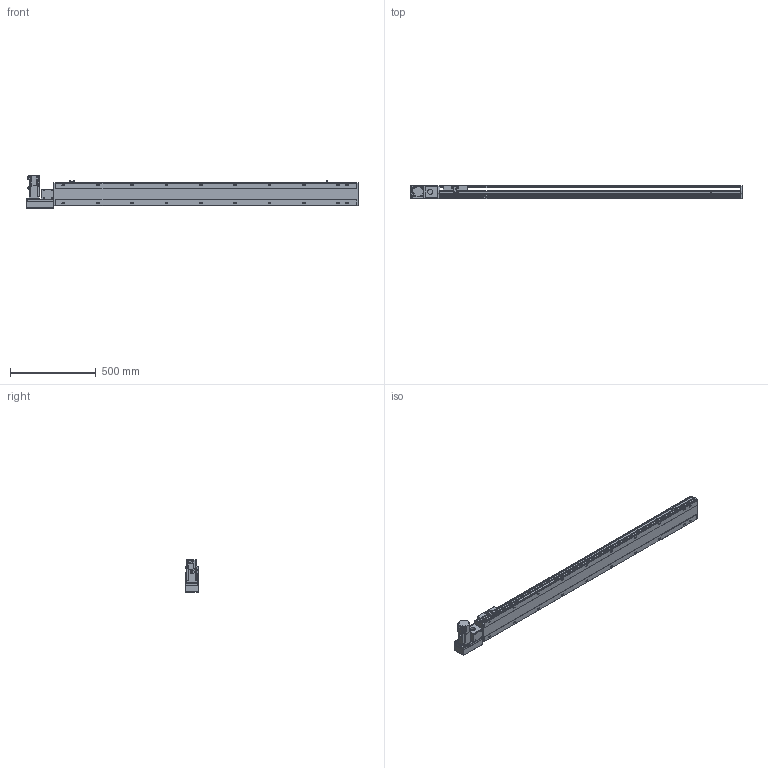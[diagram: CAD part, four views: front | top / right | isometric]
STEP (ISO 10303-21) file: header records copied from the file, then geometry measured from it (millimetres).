
FILE_DESCRIPTION(/* description */ ('STEP AP214'),/* implementation_level */ '2;1');
FILE_NAME(/* name */ 'PBS140-P40-S1500-L-T40-C1-N(0)',/* time_stamp */ '2022-06-06T03:02:25+02:00',/* author */ ('License CC BY-ND 4.0'),/* organization */ ('CADENAS'),/* preprocessor_version */ 'ST-DEVELOPER v18.102',/* originating_system */ 'PARTsolutions',/* authorisation */ ' ');
FILE_SCHEMA (('AUTOMOTIVE_DESIGN {1 0 10303 214 3 1 1}'));
Length unit declared in the file: millimetre
Products named in the file (7): PBS140-P40-S1500-L-T40-C1-N(0); PBS140_sensor; PBS140_plant; PBS140_sliser; T40-p1; PBS140T-L_motors; PBS140-S1500()_body
Assembly tree (8 placements, depth 2):
  PBS140-P40-S1500-L-T40-C1-N(0)
    PBS140_sensor  x3
    PBS140_plant
    PBS140_sliser
    T40-p1
    PBS140T-L_motors
    PBS140-S1500()_body
Bounding box: 1933 x 80.5 x 189.7 mm (x, y, z)
Volume: 8607189.9 mm3; surface area: 1487126.2 mm2
Topology: 8 solids, 8 shells, 1107 faces, 2916 edges, 1905 vertices
Faces by surface type: plane 704, cylinder 347, cone 46, sphere 8, torus 2
Full cylindrical faces by diameter (mm): 3.242 x4, 4 x2, 4.134 x4, 4.4 x8, 4.5 x2, 4.8 x4, 4.917 x28, 5.5 x7, 6 x2, 7 x22, 7.5 x8, 8 x12, 8.5 x4, 10.5 x20, 14 x1, 30 x2, 50 x2
Entity records: 31561 total; most frequent: CARTESIAN_POINT 5889, DIRECTION 5337, ORIENTED_EDGE 5032, EDGE_CURVE 2516, AXIS2_PLACEMENT_3D 1867, VERTEX_POINT 1749, LINE 1603, VECTOR 1603
